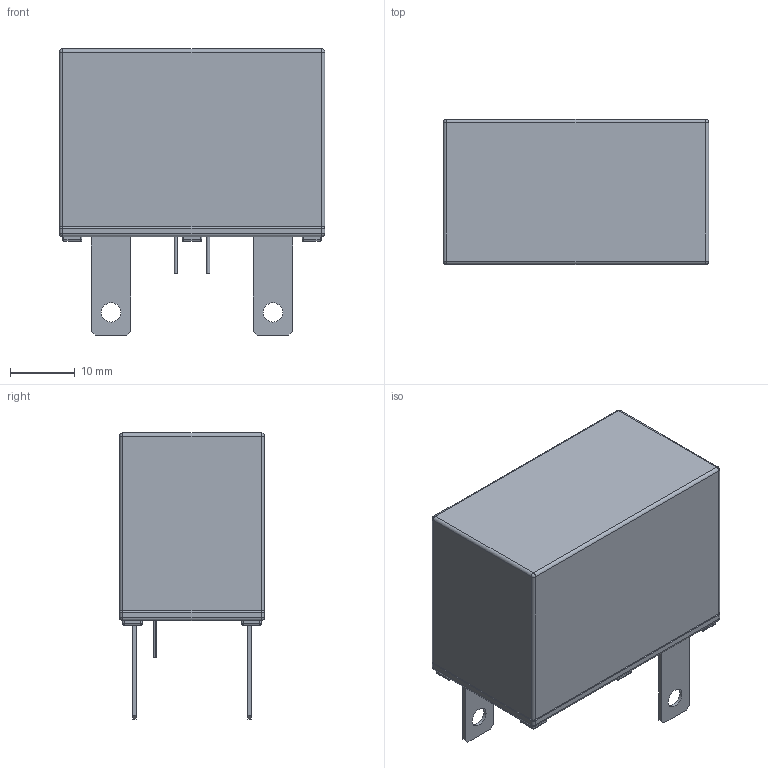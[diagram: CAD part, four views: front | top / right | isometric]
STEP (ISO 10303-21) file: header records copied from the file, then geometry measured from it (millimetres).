
FILE_DESCRIPTION((''),'2;1');
FILE_NAME('TFMOV20K-22-20200812','2020-08-12T',('SET-01114'),(''),'PRO/ENGINEER BY PARAMETRIC TECHNOLOGY CORPORATION, 2012310','PRO/ENGINEER BY PARAMETRIC TECHNOLOGY CORPORATION, 2012310','');
FILE_SCHEMA(('CONFIG_CONTROL_DESIGN','SHAPE_APPEARANCE_LAYERS_GROUPS'));
Length unit declared in the file: millimetre
Products named in the file (1): TFMOV20K-22-20200812
Bounding box: 41 x 22.4 x 44.2 mm (x, y, z)
Volume: 26570.9 mm3; surface area: 7262.9 mm2
Topology: 1 solids, 6 shells, 278 faces, 648 edges, 390 vertices
Faces by surface type: plane 123, cylinder 110, sphere 35, torus 9, bspline 1
Entity records: 9873 total; most frequent: CARTESIAN_POINT 1419, DIRECTION 1403, ORIENTED_EDGE 1296, PRESENTATION_STYLE_ASSIGNMENT 649, STYLED_ITEM 649, CURVE_STYLE 648, EDGE_CURVE 648, AXIS2_PLACEMENT_3D 496
